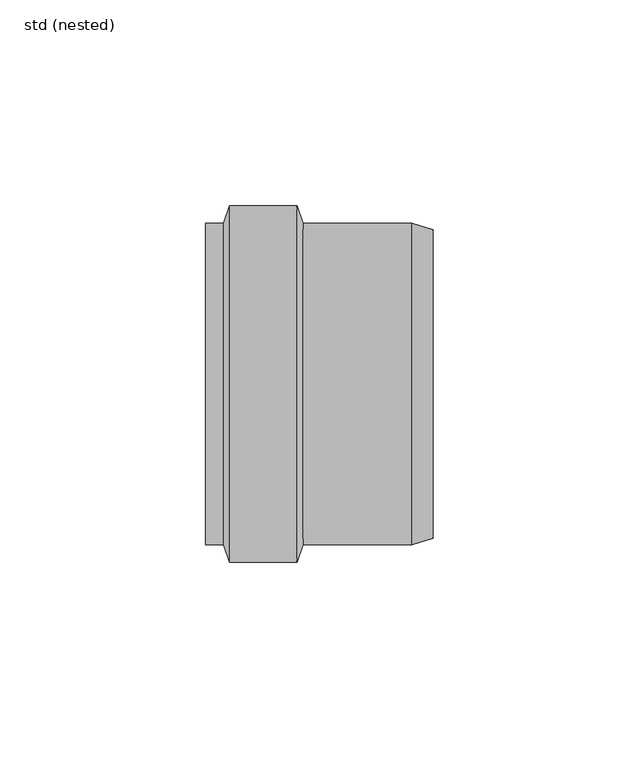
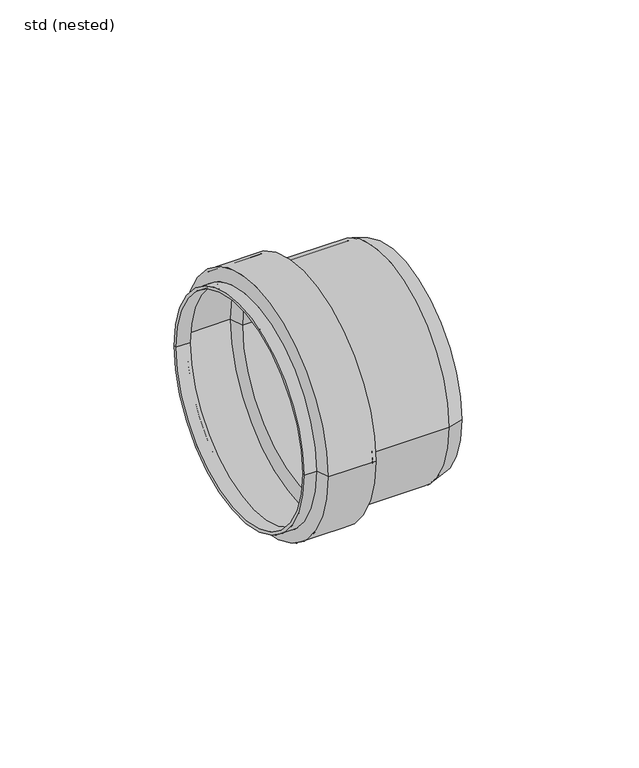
"""IFC4 building model written with IfcOpenShell, lengths in millimetres: pipe fitting geometry, ZZZ_do not use_PIF_ST_UN_ACO pipe socket_ACO : std (nested)."""

import ifcopenshell
import ifcopenshell.guid

model = None  # the IFC model being written
_history = None  # IfcOwnerHistory: only IFC2X3 demands one
_inside = {}  # id of a spatial element -> (the spatial element, [elements in it])
_under = {}  # id of a project, library or spatial element -> (it, [spatial elements below it])
_declared = {}  # id of a project -> (the project, [libraries it declares])
_typed = {}  # id of a type object -> (the type object, [elements of that type])
_made_of = {}  # id of a material, layer set ... -> (it, [elements and type objects made of it])


def new_model(schema):
    """Start an empty IFC model of exactly this schema.

    Asked for "IFC4X3", IfcOpenShell would pick the latest addendum, in which some entities
    have other attributes; the version numbers below select the first issue.
    IFC2X3 requires an IfcOwnerHistory on every rooted entity: one is made here for all.
    """
    global model, _history
    if schema == "IFC4X3":
        model = ifcopenshell.file(schema_version=(4, 3, 0, 0))
    else:
        model = ifcopenshell.file(schema=schema)
    _inside.clear()
    _under.clear()
    _declared.clear()
    _typed.clear()
    _made_of.clear()
    _history = None
    if model.schema == "IFC2X3":
        org = make("IfcOrganization", Name="unknown")
        user = make(
            "IfcPersonAndOrganization",
            ThePerson=make("IfcPerson", FamilyName="unknown"),
            TheOrganization=org,
        )
        app = make(
            "IfcApplication",
            ApplicationDeveloper=org,
            Version="unknown",
            ApplicationFullName="unknown",
            ApplicationIdentifier="unknown",
        )
        _history = make(
            "IfcOwnerHistory",
            OwningUser=user,
            OwningApplication=app,
            ChangeAction="ADDED",
            CreationDate=0,
        )
    return model


def make(cls, **values):
    """One entity of the class cls with the attributes given. An attribute that is None is left unset."""
    return model.create_entity(
        cls, **{name: value for name, value in values.items() if value is not None}
    )


def rooted(cls, **values):
    """An entity with a GlobalId (a new one), such as an element, a storey or a relation."""
    return make(cls, GlobalId=ifcopenshell.guid.new(), OwnerHistory=_history, **values)


def si_unit(unit_type, name, prefix=None):
    """IfcSIUnit, for example si_unit("LENGTHUNIT", "METRE", prefix="MILLI")."""
    return make("IfcSIUnit", UnitType=unit_type, Prefix=prefix, Name=name)


def assignment(units):
    """IfcUnitAssignment: the units of a project."""
    return None if units is None else make("IfcUnitAssignment", Units=units)


def point(xyz):
    """IfcCartesianPoint."""
    return None if xyz is None else make("IfcCartesianPoint", Coordinates=xyz)


def direction(xyz):
    """IfcDirection."""
    return None if xyz is None else make("IfcDirection", DirectionRatios=xyz)


def frame(location, z_axis=None, x_axis=None):
    """IfcAxis2Placement3D, a coordinate frame: its origin and axes. An axis left out is left unset."""
    return make(
        "IfcAxis2Placement3D",
        Location=point(location),
        Axis=direction(z_axis),
        RefDirection=direction(x_axis),
    )


def origin():
    """The frame at (0, 0, 0) with its axes left unset."""
    return frame((0.0, 0.0, 0.0))


def place(relative_to, where):
    """IfcLocalPlacement: puts the frame where relative to a parent placement (None: the world)."""
    return make(
        "IfcLocalPlacement", PlacementRelTo=relative_to, RelativePlacement=where
    )


def context(
    kind, dimensions, precision=None, world=None, true_north=None, identifier=None
):
    """IfcGeometricRepresentationContext, for example the 3D "Model" context."""
    return make(
        "IfcGeometricRepresentationContext",
        ContextIdentifier=identifier,
        ContextType=kind,
        CoordinateSpaceDimension=dimensions,
        Precision=precision,
        WorldCoordinateSystem=world,
        TrueNorth=true_north,
    )


def project(units=None, contexts=None):
    """IfcProject with its units and contexts."""
    return rooted(
        "IfcProject",
        Name="project",
        RepresentationContexts=contexts,
        UnitsInContext=assignment(units),
    )


def spatial(cls, under=None, at=None, **own):
    """A site, building, storey or space (cls), placed at a placement, below another one or the project."""
    s = rooted(cls, ObjectPlacement=at, **own)
    if under is not None:
        _under.setdefault(under.id(), (under, []))[1].append(s)
    return s


def polyline(points):
    """IfcPolyline through the points."""
    return make("IfcPolyline", Points=[point(p) for p in points])


def circle_curve(where, radius):
    """IfcCircle in the frame where."""
    return make("IfcCircle", Position=where, Radius=radius)


def shape(context_of_items, identifier, shape_type, items):
    """IfcShapeRepresentation: the items that make up one representation, for example the "Body"."""
    return make(
        "IfcShapeRepresentation",
        ContextOfItems=context_of_items,
        RepresentationIdentifier=identifier,
        RepresentationType=shape_type,
        Items=items,
    )


def source(mapping_origin, context_of_items, identifier, shape_type, items):
    """IfcRepresentationMap: a shape defined once, which mapped items show again and again."""
    return make(
        "IfcRepresentationMap",
        MappingOrigin=mapping_origin,
        MappedRepresentation=shape(context_of_items, identifier, shape_type, items),
    )


def transform(
    local_origin,
    x_axis=None,
    y_axis=None,
    z_axis=None,
    scale=None,
    scale2=None,
    scale3=None,
    uniform=True,
):
    """IfcCartesianTransformationOperator3D, or its non-uniform kind. x_axis, y_axis, z_axis: its Axis1, 2, 3."""
    if uniform:
        return make(
            "IfcCartesianTransformationOperator3D",
            Axis1=direction(x_axis),
            Axis2=direction(y_axis),
            LocalOrigin=point(local_origin),
            Scale=scale,
            Axis3=direction(z_axis),
        )
    return make(
        "IfcCartesianTransformationOperator3DnonUniform",
        Axis1=direction(x_axis),
        Axis2=direction(y_axis),
        LocalOrigin=point(local_origin),
        Scale=scale,
        Axis3=direction(z_axis),
        Scale2=scale2,
        Scale3=scale3,
    )


def mapped(mapping_source, mapping_target):
    """IfcMappedItem: shows the shape of a source again, moved by a transform."""
    return make(
        "IfcMappedItem", MappingSource=mapping_source, MappingTarget=mapping_target
    )


def made_of(thing, what):
    """Note that an element or type object is made of a material, layer set ...; save() writes the relation."""
    if what is not None:
        _made_of.setdefault(what.id(), (what, []))[1].append(thing)
    return thing


def element(
    cls,
    number,
    at=None,
    inside=None,
    cuts=None,
    type_object=None,
    material=None,
    context=None,
    identifier="Body",
    shape_type=None,
    held_by="IfcProductDefinitionShape",
    body=None,
    shapes=None,
    **own,
):
    """One element of the class cls, such as IfcWall. Its Tag is "e" and its number.

    at: its placement. inside: the storey or other place that contains it. cuts: it is an
    opening in that element (IfcRelVoidsElement). A single representation is given by context,
    identifier, shape_type and body (its items); several are given by shapes. held_by: the class
    of the entity that holds the representations. save() writes the other relations.
    """
    e = rooted(cls, Tag="e%d" % number, ObjectPlacement=at, **own)
    if body is not None:
        shapes = [shape(context, identifier, shape_type, body)]
    if shapes is not None:
        e.Representation = make(held_by, Representations=shapes)
    if inside is not None:
        _inside.setdefault(inside.id(), (inside, []))[1].append(e)
    if cuts is not None:
        rooted(
            "IfcRelVoidsElement", RelatingBuildingElement=cuts, RelatedOpeningElement=e
        )
    if type_object is not None:
        _typed.setdefault(type_object.id(), (type_object, []))[1].append(e)
    return made_of(e, material)


def aggregate(whole, parts):
    """IfcRelAggregates: a whole, such as a stair, and the parts it consists of."""
    return rooted("IfcRelAggregates", RelatingObject=whole, RelatedObjects=parts)


def save(model, path):
    """Write the relations noted so far, then the file.

    IfcRelAggregates (storeys below a building ...), IfcRelContainedInSpatialStructure (elements
    in a storey), IfcRelDefinesByType, IfcRelAssociatesMaterial and IfcRelDeclares: one each for
    every whole, place, type object, material and project.
    """
    for whole, parts in _under.values():
        aggregate(whole, parts)
    for where, things in _inside.values():
        rooted(
            "IfcRelContainedInSpatialStructure",
            RelatedElements=things,
            RelatingStructure=where,
        )
    for kind, things in _typed.values():
        rooted("IfcRelDefinesByType", RelatedObjects=things, RelatingType=kind)
    for what, things in _made_of.values():
        rooted("IfcRelAssociatesMaterial", RelatedObjects=things, RelatingMaterial=what)
    for by, libraries in _declared.values():
        rooted("IfcRelDeclares", RelatingContext=by, RelatedDefinitions=libraries)
    model.write(path)


def plane_surface(at):
    """IfcPlane: the flat surface through the origin of the frame at, square to its z axis."""
    return make("IfcPlane", Position=at)


def cylinder_surface(at, radius):
    """IfcCylindricalSurface: all points at the distance radius from the z axis of the frame at."""
    return make("IfcCylindricalSurface", Position=at, Radius=radius)


def revolved_surface(curve, axis_point, axis_direction):
    """IfcSurfaceOfRevolution: the curve turned about the line through axis_point along axis_direction."""
    return make(
        "IfcSurfaceOfRevolution",
        SweptCurve=make("IfcArbitraryOpenProfileDef", ProfileType="CURVE", Curve=curve),
        AxisPosition=make("IfcAxis1Placement", Location=point(axis_point), Axis=direction(axis_direction)),
    )


def advanced_brep(points, edges, surfaces, faces):
    """IfcAdvancedBrep: a solid bounded by faces that lie on surfaces and meet in shared edges.

    An edge is (start, end): straight between two places in points (the first is 0);
    or (start, end, curve); or (start, end, curve, False) where it runs against its curve.
    A face is (place in surfaces, loops), or (place, loops, False) where it looks against
    its surface's normal. A loop lists edges by number (the first is 1), with a minus sign
    where the edge is run from its end to its start. The first loop is the outer one.
    """
    corners = [point(p) for p in points]
    vertices = [make("IfcVertexPoint", VertexGeometry=c) for c in corners]
    made = []
    for start, end, *more in edges:
        made.append(
            make(
                "IfcEdgeCurve",
                EdgeStart=vertices[start],
                EdgeEnd=vertices[end],
                EdgeGeometry=more[0] if more else make("IfcPolyline", Points=[corners[start], corners[end]]),
                SameSense=more[1] if len(more) > 1 else True,
            )
        )
    hull = []
    for where, loops, *sense in faces:
        bounds = []
        for j, loop in enumerate(loops):
            ring = [make("IfcOrientedEdge", EdgeElement=made[abs(k) - 1], Orientation=k > 0) for k in loop]
            bounds.append(
                make(
                    "IfcFaceOuterBound" if j == 0 else "IfcFaceBound",
                    Bound=make("IfcEdgeLoop", EdgeList=ring),
                    Orientation=True,
                )
            )
        hull.append(make("IfcAdvancedFace", Bounds=bounds, FaceSurface=surfaces[where], SameSense=sense[0] if sense else True))
    return make("IfcAdvancedBrep", Outer=make("IfcClosedShell", CfsFaces=hull))


def std_nested_5f98b4e1(model_context):
    return source(origin(), model_context, "Body", "AdvancedBrep", [
        advanced_brep(
        [(-43.4, -42.5, 0.0), (-43.4, 42.5, 0.0), (-45.0, 38.0, 0.0), (-45.0, -38.0, 0.0), (-28.6, -42.5, 0.0), (-28.6, 42.5, 0.0), (-27.0, -38.0, 0.0), (-27.0, 38.0, 0.0), (0.0, -38.0, 0.0), (0.0, 38.0, 0.0), (5.0, -36.5, 0.0), (5.0, 36.5, 0.0), (5.2873479, -37.4578263, 0.0), (5.2873479, 37.4578263, 0.0), (0.1467688, -39.0, 0.0), (0.1467688, 39.0, 0.0), (-26.2942263, -39.0, 0.0), (-26.2942263, 39.0, 0.0), (-27.8079853, -43.2574473, 0.0), (-27.8079853, 43.2574473, 0.0), (-44.1920147, -43.2574473, 0.0), (-44.1920147, 43.2574473, 0.0), (-45.7057737, -39.0, 0.0), (-45.7057737, 39.0, 0.0), (-50.0, -39.0, 0.0), (-50.0, 39.0, 0.0), (-50.0, -38.0, 0.0), (-50.0, 38.0, 0.0)],
        [
            (0, 1, circle_curve(frame((-43.4, 0.0, 0.0), z_axis=(1.0, 0.0, 0.0), x_axis=(0.0, 1.0, 0.0)), 42.5)),
            (1, 2),
            (2, 3, circle_curve(frame((-45.0, 0.0, 0.0), z_axis=(-1.0, 0.0, 0.0), x_axis=(0.0, 1.0, 0.0)), 38.0)),
            (3, 0),
            (1, 0, circle_curve(frame((-43.4, 0.0, 0.0), z_axis=(1.0, 0.0, 0.0), x_axis=(0.0, 1.0, 0.0)), 42.5)),
            (3, 2, circle_curve(frame((-45.0, 0.0, 0.0), z_axis=(-1.0, 0.0, 0.0), x_axis=(0.0, 1.0, 0.0)), 38.0)),
            (4, 5, circle_curve(frame((-28.6, 0.0, 0.0), z_axis=(1.0, 0.0, 0.0), x_axis=(0.0, 1.0, 0.0)), 42.5)),
            (5, 1),
            (0, 4),
            (5, 4, circle_curve(frame((-28.6, 0.0, 0.0), z_axis=(1.0, 0.0, 0.0), x_axis=(0.0, 1.0, 0.0)), 42.5)),
            (6, 7, circle_curve(frame((-27.0, 0.0, 0.0), z_axis=(1.0, 0.0, 0.0), x_axis=(0.0, 1.0, 0.0)), 38.0)),
            (7, 5),
            (4, 6),
            (7, 6, circle_curve(frame((-27.0, 0.0, 0.0), z_axis=(1.0, 0.0, 0.0), x_axis=(0.0, 1.0, 0.0)), 38.0)),
            (8, 9, circle_curve(frame((0.0, 0.0, 0.0), z_axis=(1.0, 0.0, 0.0), x_axis=(0.0, 1.0, 0.0)), 38.0)),
            (9, 7),
            (6, 8),
            (9, 8, circle_curve(frame((0.0, 0.0, 0.0), z_axis=(1.0, 0.0, 0.0), x_axis=(0.0, 1.0, 0.0)), 38.0)),
            (10, 11, circle_curve(frame((5.0, 0.0, 0.0), z_axis=(1.0, 0.0, 0.0), x_axis=(0.0, 1.0, 0.0)), 36.5)),
            (11, 9),
            (8, 10),
            (11, 10, circle_curve(frame((5.0, 0.0, 0.0), z_axis=(1.0, 0.0, 0.0), x_axis=(0.0, 1.0, 0.0)), 36.5)),
            (12, 13, circle_curve(frame((5.2873479, 0.0, 0.0), z_axis=(1.0, 0.0, 0.0), x_axis=(0.0, 1.0, 0.0)), 37.4578263)),
            (13, 11),
            (10, 12),
            (13, 12, circle_curve(frame((5.2873479, 0.0, 0.0), z_axis=(1.0, 0.0, 0.0), x_axis=(0.0, 1.0, 0.0)), 37.4578263)),
            (14, 15, circle_curve(frame((0.1467688, 0.0, 0.0), z_axis=(1.0, 0.0, 0.0), x_axis=(0.0, 1.0, 0.0)), 39.0)),
            (15, 13),
            (12, 14),
            (15, 14, circle_curve(frame((0.1467688, 0.0, 0.0), z_axis=(1.0, 0.0, 0.0), x_axis=(0.0, 1.0, 0.0)), 39.0)),
            (16, 17, circle_curve(frame((-26.2942263, 0.0, 0.0), z_axis=(1.0, 0.0, 0.0), x_axis=(0.0, 1.0, 0.0)), 39.0)),
            (17, 15),
            (14, 16),
            (17, 16, circle_curve(frame((-26.2942263, 0.0, 0.0), z_axis=(1.0, 0.0, 0.0), x_axis=(0.0, 1.0, 0.0)), 39.0)),
            (18, 19, circle_curve(frame((-27.8079853, 0.0, 0.0), z_axis=(1.0, 0.0, 0.0), x_axis=(0.0, 1.0, 0.0)), 43.2574473)),
            (19, 17),
            (16, 18),
            (19, 18, circle_curve(frame((-27.8079853, 0.0, 0.0), z_axis=(1.0, 0.0, 0.0), x_axis=(0.0, 1.0, 0.0)), 43.2574473)),
            (20, 21, circle_curve(frame((-44.1920147, 0.0, 0.0), z_axis=(1.0, 0.0, 0.0), x_axis=(0.0, 1.0, 0.0)), 43.2574473)),
            (21, 19),
            (18, 20),
            (21, 20, circle_curve(frame((-44.1920147, 0.0, 0.0), z_axis=(1.0, 0.0, 0.0), x_axis=(0.0, 1.0, 0.0)), 43.2574473)),
            (22, 23, circle_curve(frame((-45.7057737, 0.0, 0.0), z_axis=(1.0, 0.0, 0.0), x_axis=(0.0, 1.0, 0.0)), 39.0)),
            (23, 21),
            (20, 22),
            (23, 22, circle_curve(frame((-45.7057737, 0.0, 0.0), z_axis=(1.0, 0.0, 0.0), x_axis=(0.0, 1.0, 0.0)), 39.0)),
            (24, 25, circle_curve(frame((-50.0, 0.0, 0.0), z_axis=(1.0, 0.0, 0.0), x_axis=(0.0, 1.0, 0.0)), 39.0)),
            (25, 23),
            (22, 24),
            (25, 24, circle_curve(frame((-50.0, 0.0, 0.0), z_axis=(1.0, 0.0, 0.0), x_axis=(0.0, 1.0, 0.0)), 39.0)),
            (26, 27, circle_curve(frame((-50.0, 0.0, 0.0), z_axis=(1.0, 0.0, 0.0), x_axis=(0.0, 1.0, 0.0)), 38.0)),
            (27, 25),
            (24, 26),
            (27, 26, circle_curve(frame((-50.0, 0.0, 0.0), z_axis=(1.0, 0.0, 0.0), x_axis=(0.0, 1.0, 0.0)), 38.0)),
            (2, 27),
            (26, 3),
        ],
        [
            revolved_surface(polyline([(-45.0, 38.0, 0.0), (-43.4, 42.5, 0.0)]), (-47.2050583, 0.0, 0.0), (-1.0, 0.0, 0.0)),
            revolved_surface(polyline([(-43.4, 42.5, 0.0), (-28.6, 42.5, 0.0)]), (-47.2050583, 0.0, 0.0), (-1.0, 0.0, 0.0)),
            revolved_surface(polyline([(-28.6, 42.5, 0.0), (-27.0, 38.0, 0.0)]), (-47.2050583, 0.0, 0.0), (-1.0, 0.0, 0.0)),
            revolved_surface(polyline([(-27.0, 38.0, 0.0), (0.0, 38.0, 0.0)]), (-47.2050583, 0.0, 0.0), (-1.0, 0.0, 0.0)),
            revolved_surface(polyline([(0.0, 38.0, 0.0), (5.0, 36.5, 0.0)]), (-47.2050583, 0.0, 0.0), (-1.0, 0.0, 0.0)),
            revolved_surface(polyline([(5.0, 36.5, 0.0), (5.2873479, 37.4578263, 0.0)]), (-47.2050583, 0.0, 0.0), (-1.0, 0.0, 0.0)),
            revolved_surface(polyline([(5.2873479, 37.4578263, 0.0), (0.1467688, 39.0, 0.0)]), (-47.2050583, 0.0, 0.0), (-1.0, 0.0, 0.0)),
            cylinder_surface(frame((-47.2050583, 0.0, 0.0), z_axis=(-1.0, 0.0, 0.0), x_axis=(0.0, 1.0, 0.0)), 39.0),
            revolved_surface(polyline([(-26.2942263, 39.0, 0.0), (-27.8079853, 43.2574473, 0.0)]), (-47.2050583, 0.0, 0.0), (-1.0, 0.0, 0.0)),
            cylinder_surface(frame((-47.2050583, 0.0, 0.0), z_axis=(-1.0, 0.0, 0.0), x_axis=(0.0, 1.0, 0.0)), 43.2574473),
            revolved_surface(polyline([(-44.1920147, 43.2574473, 0.0), (-45.7057737, 39.0, 0.0)]), (-47.2050583, 0.0, 0.0), (-1.0, 0.0, 0.0)),
            plane_surface(frame((-50.0, 0.0, 0.0), z_axis=(-1.0, 0.0, 0.0), x_axis=(0.0, 1.0, 0.0))),
            revolved_surface(polyline([(-50.0, 38.0, 0.0), (-45.0, 38.0, 0.0)]), (-47.2050583, 0.0, 0.0), (-1.0, 0.0, 0.0)),
        ],
        [
            (0, [[1, 2, 3, 4]]),
            (0, [[5, -4, 6, -2]]),
            (1, [[7, 8, -1, 9]]),
            (1, [[10, -9, -5, -8]]),
            (2, [[11, 12, -7, 13]]),
            (2, [[14, -13, -10, -12]]),
            (3, [[15, 16, -11, 17]]),
            (3, [[18, -17, -14, -16]]),
            (4, [[19, 20, -15, 21]]),
            (4, [[22, -21, -18, -20]]),
            (5, [[23, 24, -19, 25]]),
            (5, [[26, -25, -22, -24]]),
            (6, [[27, 28, -23, 29]]),
            (6, [[30, -29, -26, -28]]),
            (7, [[31, 32, -27, 33]]),
            (7, [[34, -33, -30, -32]]),
            (8, [[35, 36, -31, 37]]),
            (8, [[38, -37, -34, -36]]),
            (9, [[39, 40, -35, 41]]),
            (9, [[42, -41, -38, -40]]),
            (10, [[43, 44, -39, 45]]),
            (10, [[46, -45, -42, -44]]),
            (7, [[47, 48, -43, 49]]),
            (7, [[50, -49, -46, -48]]),
            (11, [[51, 52, -47, 53]]),
            (11, [[54, -53, -50, -52]]),
            (12, [[-3, 55, -51, 56]]),
            (12, [[-6, -56, -54, -55]]),
        ],
    ),
    ])


if __name__ == "__main__":
    model = new_model("IFC4")
    model_context = context("Model", 3, world=origin())
    ifc_project = project(units=[si_unit("LENGTHUNIT", "METRE", prefix="MILLI")], contexts=[model_context])
    site = spatial("IfcSite", under=ifc_project)
    building = spatial("IfcBuilding", under=site)
    placement = place(None, origin())
    std_nested_shape = std_nested_5f98b4e1(model_context)
    element("IfcPipeFitting", 1, ObjectType="ZZZ_do not use_PIF_ST_UN_ACO pipe socket_ACO : std (nested)", at=placement, inside=building, context=model_context, shape_type="MappedRepresentation", body=[
        mapped(std_nested_shape, transform((0.0, 0.0, 0.0), x_axis=(1.0, 0.0, 0.0), y_axis=(0.0, 1.0, 0.0), z_axis=(0.0, 0.0, 1.0))),
    ])
    save(model, "model.ifc")
